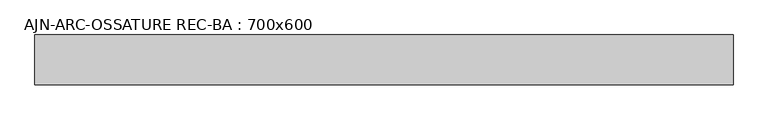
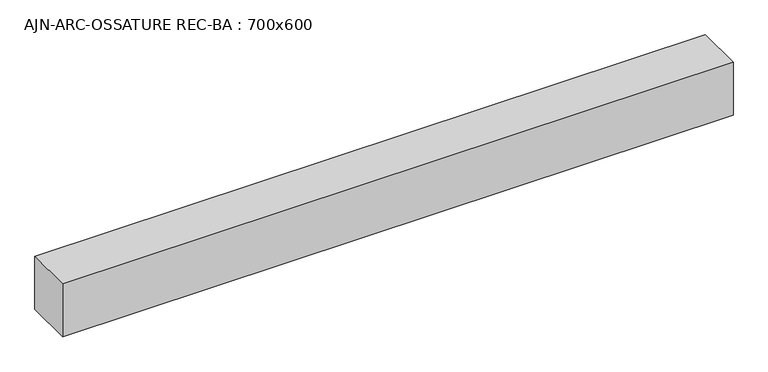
"""IFC4 building model written with IfcOpenShell, lengths in millimetres: beam geometry, AJN-ARC-OSSATURE REC-BA : 700x600."""

import ifcopenshell
import ifcopenshell.guid

model = None  # the IFC model being written
_history = None  # IfcOwnerHistory: only IFC2X3 demands one
_inside = {}  # id of a spatial element -> (the spatial element, [elements in it])
_under = {}  # id of a project, library or spatial element -> (it, [spatial elements below it])
_declared = {}  # id of a project -> (the project, [libraries it declares])
_typed = {}  # id of a type object -> (the type object, [elements of that type])
_made_of = {}  # id of a material, layer set ... -> (it, [elements and type objects made of it])


def new_model(schema):
    """Start an empty IFC model of exactly this schema.

    Asked for "IFC4X3", IfcOpenShell would pick the latest addendum, in which some entities
    have other attributes; the version numbers below select the first issue.
    IFC2X3 requires an IfcOwnerHistory on every rooted entity: one is made here for all.
    """
    global model, _history
    if schema == "IFC4X3":
        model = ifcopenshell.file(schema_version=(4, 3, 0, 0))
    else:
        model = ifcopenshell.file(schema=schema)
    _inside.clear()
    _under.clear()
    _declared.clear()
    _typed.clear()
    _made_of.clear()
    _history = None
    if model.schema == "IFC2X3":
        org = make("IfcOrganization", Name="unknown")
        user = make(
            "IfcPersonAndOrganization",
            ThePerson=make("IfcPerson", FamilyName="unknown"),
            TheOrganization=org,
        )
        app = make(
            "IfcApplication",
            ApplicationDeveloper=org,
            Version="unknown",
            ApplicationFullName="unknown",
            ApplicationIdentifier="unknown",
        )
        _history = make(
            "IfcOwnerHistory",
            OwningUser=user,
            OwningApplication=app,
            ChangeAction="ADDED",
            CreationDate=0,
        )
    return model


def make(cls, **values):
    """One entity of the class cls with the attributes given. An attribute that is None is left unset."""
    return model.create_entity(
        cls, **{name: value for name, value in values.items() if value is not None}
    )


def rooted(cls, **values):
    """An entity with a GlobalId (a new one), such as an element, a storey or a relation."""
    return make(cls, GlobalId=ifcopenshell.guid.new(), OwnerHistory=_history, **values)


def si_unit(unit_type, name, prefix=None):
    """IfcSIUnit, for example si_unit("LENGTHUNIT", "METRE", prefix="MILLI")."""
    return make("IfcSIUnit", UnitType=unit_type, Prefix=prefix, Name=name)


def assignment(units):
    """IfcUnitAssignment: the units of a project."""
    return None if units is None else make("IfcUnitAssignment", Units=units)


def point(xyz):
    """IfcCartesianPoint."""
    return None if xyz is None else make("IfcCartesianPoint", Coordinates=xyz)


def direction(xyz):
    """IfcDirection."""
    return None if xyz is None else make("IfcDirection", DirectionRatios=xyz)


def frame(location, z_axis=None, x_axis=None):
    """IfcAxis2Placement3D, a coordinate frame: its origin and axes. An axis left out is left unset."""
    return make(
        "IfcAxis2Placement3D",
        Location=point(location),
        Axis=direction(z_axis),
        RefDirection=direction(x_axis),
    )


def origin():
    """The frame at (0, 0, 0) with its axes left unset."""
    return frame((0.0, 0.0, 0.0))


def place(relative_to, where):
    """IfcLocalPlacement: puts the frame where relative to a parent placement (None: the world)."""
    return make(
        "IfcLocalPlacement", PlacementRelTo=relative_to, RelativePlacement=where
    )


def context(
    kind, dimensions, precision=None, world=None, true_north=None, identifier=None
):
    """IfcGeometricRepresentationContext, for example the 3D "Model" context."""
    return make(
        "IfcGeometricRepresentationContext",
        ContextIdentifier=identifier,
        ContextType=kind,
        CoordinateSpaceDimension=dimensions,
        Precision=precision,
        WorldCoordinateSystem=world,
        TrueNorth=true_north,
    )


def project(units=None, contexts=None):
    """IfcProject with its units and contexts."""
    return rooted(
        "IfcProject",
        Name="project",
        RepresentationContexts=contexts,
        UnitsInContext=assignment(units),
    )


def spatial(cls, under=None, at=None, **own):
    """A site, building, storey or space (cls), placed at a placement, below another one or the project."""
    s = rooted(cls, ObjectPlacement=at, **own)
    if under is not None:
        _under.setdefault(under.id(), (under, []))[1].append(s)
    return s


def polyline(points):
    """IfcPolyline through the points."""
    return make("IfcPolyline", Points=[point(p) for p in points])


def outline(outer, holes=None, kind="AREA"):
    """IfcArbitraryClosedProfileDef: a profile drawn as a closed curve; with holes, ...WithVoids."""
    if holes is None:
        return make("IfcArbitraryClosedProfileDef", ProfileType=kind, OuterCurve=outer)
    return make(
        "IfcArbitraryProfileDefWithVoids",
        ProfileType=kind,
        OuterCurve=outer,
        InnerCurves=holes,
    )


def extrude(swept, where, along, depth):
    """IfcExtrudedAreaSolid: the profile swept, set in the frame where, extruded along a direction by depth."""
    return make(
        "IfcExtrudedAreaSolid",
        SweptArea=swept,
        Position=where,
        ExtrudedDirection=direction(along),
        Depth=depth,
    )


def shape(context_of_items, identifier, shape_type, items):
    """IfcShapeRepresentation: the items that make up one representation, for example the "Body"."""
    return make(
        "IfcShapeRepresentation",
        ContextOfItems=context_of_items,
        RepresentationIdentifier=identifier,
        RepresentationType=shape_type,
        Items=items,
    )


def source(mapping_origin, context_of_items, identifier, shape_type, items):
    """IfcRepresentationMap: a shape defined once, which mapped items show again and again."""
    return make(
        "IfcRepresentationMap",
        MappingOrigin=mapping_origin,
        MappedRepresentation=shape(context_of_items, identifier, shape_type, items),
    )


def transform(
    local_origin,
    x_axis=None,
    y_axis=None,
    z_axis=None,
    scale=None,
    scale2=None,
    scale3=None,
    uniform=True,
):
    """IfcCartesianTransformationOperator3D, or its non-uniform kind. x_axis, y_axis, z_axis: its Axis1, 2, 3."""
    if uniform:
        return make(
            "IfcCartesianTransformationOperator3D",
            Axis1=direction(x_axis),
            Axis2=direction(y_axis),
            LocalOrigin=point(local_origin),
            Scale=scale,
            Axis3=direction(z_axis),
        )
    return make(
        "IfcCartesianTransformationOperator3DnonUniform",
        Axis1=direction(x_axis),
        Axis2=direction(y_axis),
        LocalOrigin=point(local_origin),
        Scale=scale,
        Axis3=direction(z_axis),
        Scale2=scale2,
        Scale3=scale3,
    )


def mapped(mapping_source, mapping_target):
    """IfcMappedItem: shows the shape of a source again, moved by a transform."""
    return make(
        "IfcMappedItem", MappingSource=mapping_source, MappingTarget=mapping_target
    )


def made_of(thing, what):
    """Note that an element or type object is made of a material, layer set ...; save() writes the relation."""
    if what is not None:
        _made_of.setdefault(what.id(), (what, []))[1].append(thing)
    return thing


def element(
    cls,
    number,
    at=None,
    inside=None,
    cuts=None,
    type_object=None,
    material=None,
    context=None,
    identifier="Body",
    shape_type=None,
    held_by="IfcProductDefinitionShape",
    body=None,
    shapes=None,
    **own,
):
    """One element of the class cls, such as IfcWall. Its Tag is "e" and its number.

    at: its placement. inside: the storey or other place that contains it. cuts: it is an
    opening in that element (IfcRelVoidsElement). A single representation is given by context,
    identifier, shape_type and body (its items); several are given by shapes. held_by: the class
    of the entity that holds the representations. save() writes the other relations.
    """
    e = rooted(cls, Tag="e%d" % number, ObjectPlacement=at, **own)
    if body is not None:
        shapes = [shape(context, identifier, shape_type, body)]
    if shapes is not None:
        e.Representation = make(held_by, Representations=shapes)
    if inside is not None:
        _inside.setdefault(inside.id(), (inside, []))[1].append(e)
    if cuts is not None:
        rooted(
            "IfcRelVoidsElement", RelatingBuildingElement=cuts, RelatedOpeningElement=e
        )
    if type_object is not None:
        _typed.setdefault(type_object.id(), (type_object, []))[1].append(e)
    return made_of(e, material)


def aggregate(whole, parts):
    """IfcRelAggregates: a whole, such as a stair, and the parts it consists of."""
    return rooted("IfcRelAggregates", RelatingObject=whole, RelatedObjects=parts)


def save(model, path):
    """Write the relations noted so far, then the file.

    IfcRelAggregates (storeys below a building ...), IfcRelContainedInSpatialStructure (elements
    in a storey), IfcRelDefinesByType, IfcRelAssociatesMaterial and IfcRelDeclares: one each for
    every whole, place, type object, material and project.
    """
    for whole, parts in _under.values():
        aggregate(whole, parts)
    for where, things in _inside.values():
        rooted(
            "IfcRelContainedInSpatialStructure",
            RelatedElements=things,
            RelatingStructure=where,
        )
    for kind, things in _typed.values():
        rooted("IfcRelDefinesByType", RelatedObjects=things, RelatingType=kind)
    for what, things in _made_of.values():
        rooted("IfcRelAssociatesMaterial", RelatedObjects=things, RelatingMaterial=what)
    for by, libraries in _declared.values():
        rooted("IfcRelDeclares", RelatingContext=by, RelatedDefinitions=libraries)
    model.write(path)


def ajn_arc_ossature_rec_ba_700x600_213c05e2(model_context):
    return source(origin(), model_context, "Body", "SweptSolid", [
        extrude(outline(polyline([(4187.3, 300.0), (4187.3, -300.0), (-4187.3, -300.0), (-4187.3, 300.0), (4187.3, 300.0)])), frame((0.0, 0.0, -350.0), z_axis=(0.0, 0.0, 1.0), x_axis=(1.0, 0.0, 0.0)), (0.0, 0.0, 1.0), 700.0),
    ])


if __name__ == "__main__":
    model = new_model("IFC4")
    model_context = context("Model", 3, world=origin())
    ifc_project = project(units=[si_unit("LENGTHUNIT", "METRE", prefix="MILLI")], contexts=[model_context])
    site = spatial("IfcSite", under=ifc_project)
    building = spatial("IfcBuilding", under=site)
    placement = place(None, origin())
    ajn_arc_ossature_rec_ba_700x600_shape = ajn_arc_ossature_rec_ba_700x600_213c05e2(model_context)
    element("IfcBeam", 1, ObjectType="AJN-ARC-OSSATURE REC-BA : 700x600", at=placement, inside=building, context=model_context, shape_type="MappedRepresentation", body=[
        mapped(ajn_arc_ossature_rec_ba_700x600_shape, transform((0.0, 0.0, 0.0), x_axis=(1.0, 0.0, 0.0), y_axis=(0.0, 1.0, 0.0), z_axis=(0.0, 0.0, 1.0))),
    ])
    save(model, "model.ifc")
